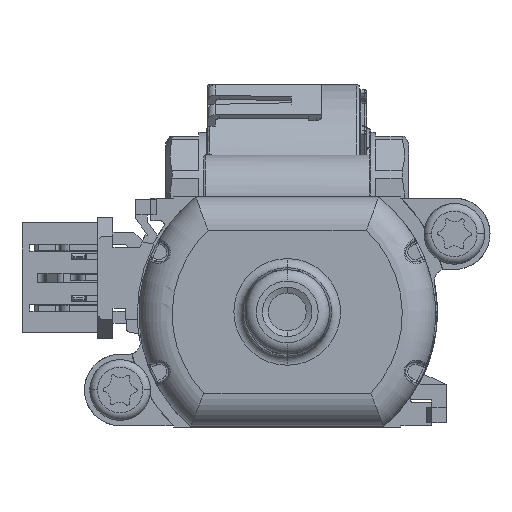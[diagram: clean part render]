
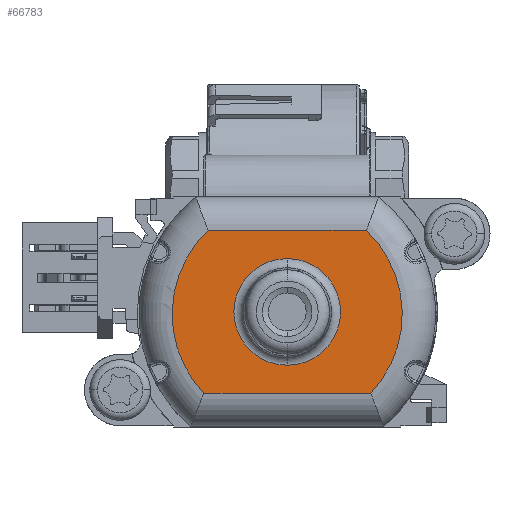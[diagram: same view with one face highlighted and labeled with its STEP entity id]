
A CAD part, front view. The second image highlights one B-rep face of the part: STEP entity #66783.
In plain terms, the highlighted planar face has unit normal (0, -1, 0).
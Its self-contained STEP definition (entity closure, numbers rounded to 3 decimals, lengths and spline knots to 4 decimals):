
#23307=DIRECTION('',(1.,0.,0.));
#23308=VECTOR('',#23307,0.8652);
#23309=CARTESIAN_POINT('',(-0.4326,-3.0945,
-0.4232));
#23310=LINE('',#23309,#23308);
#23311=DIRECTION('',(-1.,0.,0.));
#23312=VECTOR('',#23311,0.8203);
#23313=CARTESIAN_POINT('',(0.4102,-3.0945,
0.4232));
#23314=LINE('',#23313,#23312);
#23315=CARTESIAN_POINT('',(0.,-3.0945,0.));
#23316=DIRECTION('',(0.,-1.,0.));
#23317=DIRECTION('',(0.,0.,1.));
#23318=AXIS2_PLACEMENT_3D('',#23315,#23316,#23317);
#23320=CARTESIAN_POINT('',(0.,-3.0945,0.));
#23321=DIRECTION('',(0.,-1.,0.));
#23322=DIRECTION('',(0.,0.,-1.));
#23323=AXIS2_PLACEMENT_3D('',#23320,#23321,#23322);
#23368=CARTESIAN_POINT('',(0.,-3.0945,-0.0112));
#23369=DIRECTION('',(0.,-1.,0.));
#23370=DIRECTION('',(0.724,0.,-0.69));
#23371=AXIS2_PLACEMENT_3D('',#23368,#23369,#23370);
#23994=CARTESIAN_POINT('',(0.,-3.0945,-0.0112));
#23995=DIRECTION('',(0.,-1.,0.));
#23996=DIRECTION('',(-0.687,0.,0.727));
#23997=AXIS2_PLACEMENT_3D('',#23994,#23995,#23996);
#24847=CARTESIAN_POINT('',(0.,-3.0945,0.277));
#24848=CARTESIAN_POINT('',(0.,-3.0945,-0.277));
#24849=VERTEX_POINT('',#24847);
#24850=VERTEX_POINT('',#24848);
#24859=CARTESIAN_POINT('',(0.4102,-3.0945,
0.4232));
#24860=CARTESIAN_POINT('',(-0.4102,-3.0945,
0.4232));
#24861=VERTEX_POINT('',#24859);
#24862=VERTEX_POINT('',#24860);
#24863=CARTESIAN_POINT('',(-0.4326,-3.0945,
-0.4232));
#24864=CARTESIAN_POINT('',(0.4326,-3.0945,
-0.4232));
#24865=VERTEX_POINT('',#24863);
#24866=VERTEX_POINT('',#24864);
#66763=CARTESIAN_POINT('',(0.,-3.0945,0.));
#66764=DIRECTION('',(0.,1.,0.));
#66765=DIRECTION('',(-1.,0.,0.));
#66766=AXIS2_PLACEMENT_3D('',#66763,#66764,#66765);
#66767=PLANE('',#66766);
#66769=ORIENTED_EDGE('',*,*,#66768,.F.);
#66770=ORIENTED_EDGE('',*,*,#66753,.F.);
#66772=ORIENTED_EDGE('',*,*,#66771,.F.);
#66774=ORIENTED_EDGE('',*,*,#66773,.F.);
#66775=EDGE_LOOP('',(#66769,#66770,#66772,#66774));
#66776=FACE_OUTER_BOUND('',#66775,.F.);
#66778=ORIENTED_EDGE('',*,*,#66777,.T.);
#66780=ORIENTED_EDGE('',*,*,#66779,.T.);
#66781=EDGE_LOOP('',(#66778,#66780));
#66782=FACE_BOUND('',#66781,.F.);
#66783=ADVANCED_FACE('',(#66776,#66782),#66767,.F.);
#23319=CIRCLE('',#23318,0.277);
#23324=CIRCLE('',#23323,0.277);
#23372=CIRCLE('',#23371,0.5974);
#23998=CIRCLE('',#23997,0.5974);
#66753=EDGE_CURVE('',#24865,#24866,#23310,.T.);
#66768=EDGE_CURVE('',#24866,#24861,#23372,.T.);
#66771=EDGE_CURVE('',#24862,#24865,#23998,.T.);
#66773=EDGE_CURVE('',#24861,#24862,#23314,.T.);
#66777=EDGE_CURVE('',#24849,#24850,#23319,.T.);
#66779=EDGE_CURVE('',#24850,#24849,#23324,.T.);
